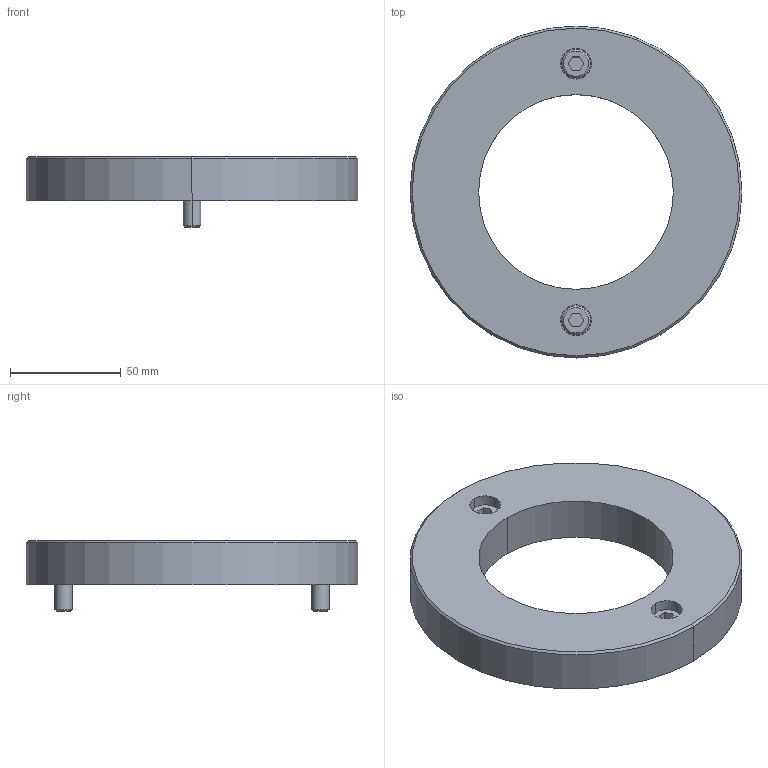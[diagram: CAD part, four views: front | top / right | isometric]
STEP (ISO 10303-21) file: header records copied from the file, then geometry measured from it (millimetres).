
FILE_DESCRIPTION((''),'2;1');
FILE_NAME('','2010-08-30T17:19:04+09:00',('misumi'),(''),'M/STEP i/f 1R2-14','CADmeister v5.1','');
FILE_SCHEMA(('AUTOMOTIVE_DESIGN'));
Length unit declared in the file: millimetre
Products named in the file (1): GEB80-20-R
Bounding box: 150 x 150 x 32 mm (x, y, z)
Volume: 230689.2 mm3; surface area: 41402.4 mm2
Topology: 3 solids, 3 shells, 54 faces, 116 edges, 74 vertices
Faces by surface type: plane 24, cylinder 20, cone 10
Entity records: 1592 total; most frequent: DIRECTION 276, CARTESIAN_POINT 245, ORIENTED_EDGE 232, EDGE_CURVE 116, AXIS2_PLACEMENT_3D 105, VERTEX_POINT 74, LINE 66, VECTOR 66
